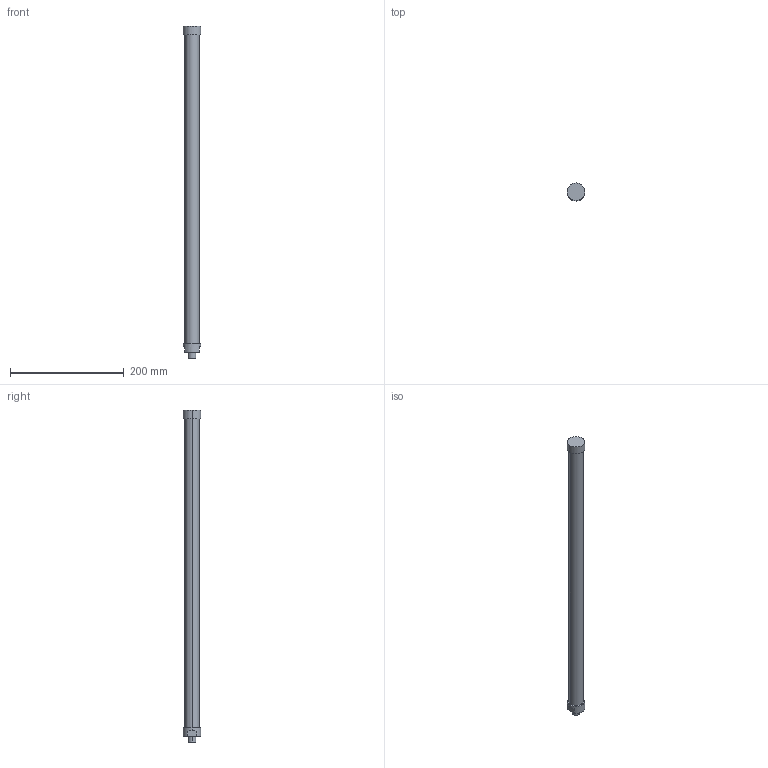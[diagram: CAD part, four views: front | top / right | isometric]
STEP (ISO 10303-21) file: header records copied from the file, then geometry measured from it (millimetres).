
FILE_DESCRIPTION(('STEP AP214'),'1');
FILE_NAME('C:/Users/Autocad/Desktop/L584-C360S1-FN.stp','2014-02-10T10:55:27',(' '),(' '),'Spatial InterOp 3D',' ',' ');
FILE_SCHEMA(('automotive_design'));
Length unit declared in the file: metre
Products named in the file (2): 1; 2
Bounding box: 31 x 31 x 584 mm (x, y, z)
Volume: 290249.5 mm3; surface area: 48692.6 mm2
Topology: 1 solids, 4 shells, 23 faces, 54 edges, 40 vertices
Faces by surface type: cylinder 12, plane 11
Entity records: 916 total; most frequent: DIRECTION 136, CARTESIAN_POINT 119, ORIENTED_EDGE 96, AXIS2_PLACEMENT_3D 57, EDGE_CURVE 54, VERTEX_POINT 40, CIRCLE 32, EDGE_LOOP 28
